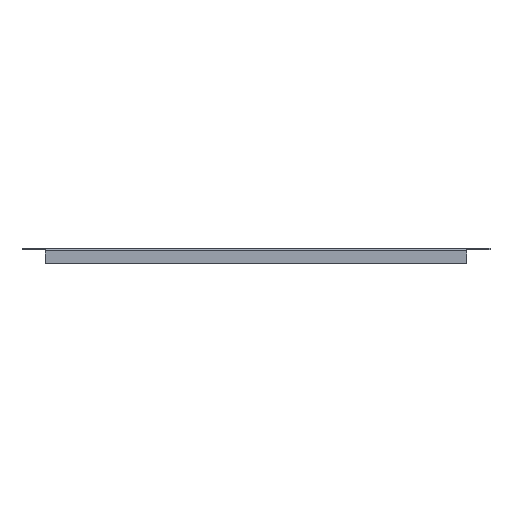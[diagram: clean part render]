
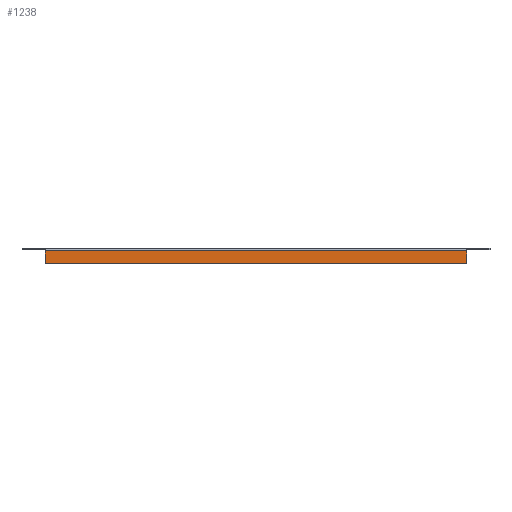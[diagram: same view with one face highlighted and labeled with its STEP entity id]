
A CAD part, front view. The second image highlights one B-rep face of the part: STEP entity #1238.
In plain terms, the highlighted planar face has unit normal (0, -1, 0).
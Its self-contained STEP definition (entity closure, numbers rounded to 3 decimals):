
#34 = VERTEX_POINT ( 'NONE', #504 ) ;
#35 = VERTEX_POINT ( 'NONE', #505 ) ;
#36 = VERTEX_POINT ( 'NONE', #506 ) ;
#42 = VERTEX_POINT ( 'NONE', #512 ) ;
#113 = EDGE_LOOP ( 'NONE', ( #335, #368, #364, #397 ) ) ;
#177 = LINE ( 'NONE', #178, #1018 ) ;
#178 = CARTESIAN_POINT ( 'NONE',  ( 209.5, -224.5, -1.2 ) ) ;
#179 = DIRECTION ( 'NONE',  ( 1., 0., 0. ) ) ;
#213 = PLANE ( 'NONE',  #1026 ) ;
#214 = CARTESIAN_POINT ( 'NONE',  ( 209.5, -224.5, 0. ) ) ;
#215 = DIRECTION ( 'NONE',  ( 0., 1., 0. ) ) ;
#216 = DIRECTION ( 'NONE',  ( 0., 0., 1. ) ) ;
#335 = ORIENTED_EDGE ( 'NONE', *, *, #1226, .F. ) ;
#364 = ORIENTED_EDGE ( 'NONE', *, *, #1181, .F. ) ;
#368 = ORIENTED_EDGE ( 'NONE', *, *, #1110, .F. ) ;
#397 = ORIENTED_EDGE ( 'NONE', *, *, #1200, .F. ) ;
#504 = CARTESIAN_POINT ( 'NONE',  ( 209.5, -224.5, -13.8 ) ) ;
#505 = CARTESIAN_POINT ( 'NONE',  ( -209.5, -224.5, -13.8 ) ) ;
#506 = CARTESIAN_POINT ( 'NONE',  ( 209.5, -224.5, -1.2 ) ) ;
#512 = CARTESIAN_POINT ( 'NONE',  ( -209.5, -224.5, -1.2 ) ) ;
#578 = LINE ( 'NONE', #579, #977 ) ;
#579 = CARTESIAN_POINT ( 'NONE',  ( -209.5, -224.5, -13.8 ) ) ;
#580 = DIRECTION ( 'NONE',  ( 0., 0., 1. ) ) ;
#794 = LINE ( 'NONE', #795, #917 ) ;
#795 = CARTESIAN_POINT ( 'NONE',  ( 209.5, -224.5, -13.8 ) ) ;
#796 = DIRECTION ( 'NONE',  ( -1., 0., 0. ) ) ;
#852 = LINE ( 'NONE', #853, #1315 ) ;
#853 = CARTESIAN_POINT ( 'NONE',  ( 209.5, -224.5, 0. ) ) ;
#854 = DIRECTION ( 'NONE',  ( 0., 0., -1. ) ) ;
#917 = VECTOR ( 'NONE', #796, 1000. ) ;
#977 = VECTOR ( 'NONE', #580, 1000. ) ;
#1018 = VECTOR ( 'NONE', #179, 1000. ) ;
#1026 = AXIS2_PLACEMENT_3D ( 'NONE', #214, #215, #216 ) ;
#1035 = FACE_OUTER_BOUND ( 'NONE', #113, .T. ) ;
#1110 = EDGE_CURVE ( 'NONE', #35, #42, #578, .T. ) ;
#1181 = EDGE_CURVE ( 'NONE', #34, #35, #794, .T. ) ;
#1200 = EDGE_CURVE ( 'NONE', #36, #34, #852, .T. ) ;
#1226 = EDGE_CURVE ( 'NONE', #42, #36, #177, .T. ) ;
#1238 = ADVANCED_FACE ( 'NONE', ( #1035 ), #213, .F. ) ;
#1315 = VECTOR ( 'NONE', #854, 1000. ) ;
